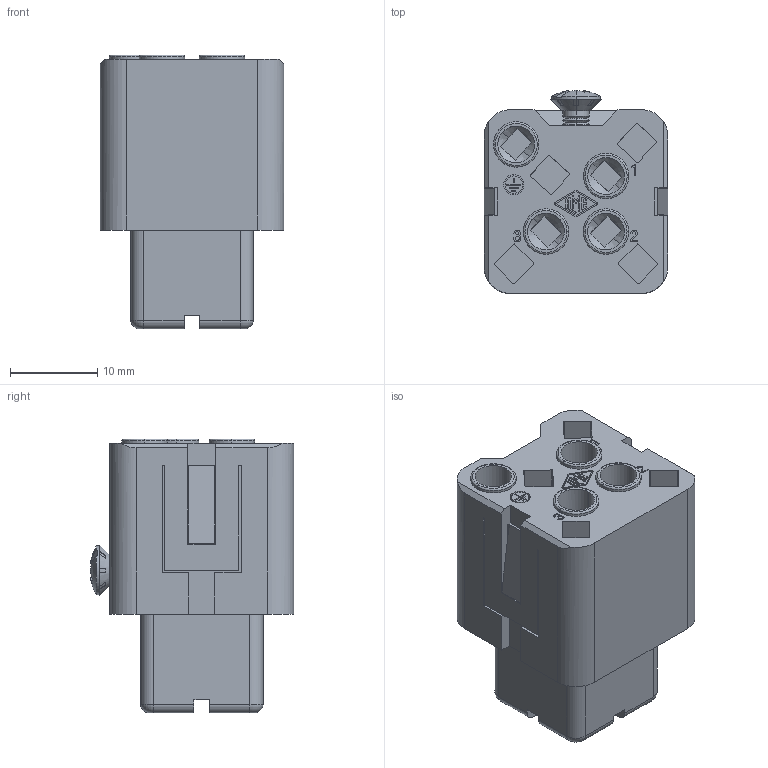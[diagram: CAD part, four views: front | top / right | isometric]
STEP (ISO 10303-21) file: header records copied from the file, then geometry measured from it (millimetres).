
FILE_DESCRIPTION(('OneSpaceDesigner STEP Export'),'2;1');
FILE_NAME('CKSF_03.stp','2008-03-27T11:05:01',(''),(''),'OneSpace Designer STEP processor for AP214 (Solid Model)','OneSpace Modeling 15.50B 03-Nov-2007 (C) CoCreate Software GmbH','');
FILE_SCHEMA(('AUTOMOTIVE_DESIGN { 1 0 10303 214 1 1 1 1 }'));
Length unit declared in the file: millimetre
Products named in the file (2): CKSF_03
Assembly tree (1 placements, depth 2):
  CKSF_03
    CKSF_03
Bounding box: 21 x 23.24 x 31.3 mm (x, y, z)
Volume: 8812.2 mm3; surface area: 5433.3 mm2
Topology: 1 solids, 1 shells, 726 faces, 1987 edges, 1289 vertices
Faces by surface type: plane 529, cylinder 134, cone 30, torus 19, sphere 14
Entity records: 26023 total; most frequent: CARTESIAN_POINT 5939, ORIENTED_EDGE 3954, DIRECTION 3349, EDGE_CURVE 1977, VECTOR 1509, LINE 1509, VERTEX_POINT 1289, AXIS2_PLACEMENT_3D 920
